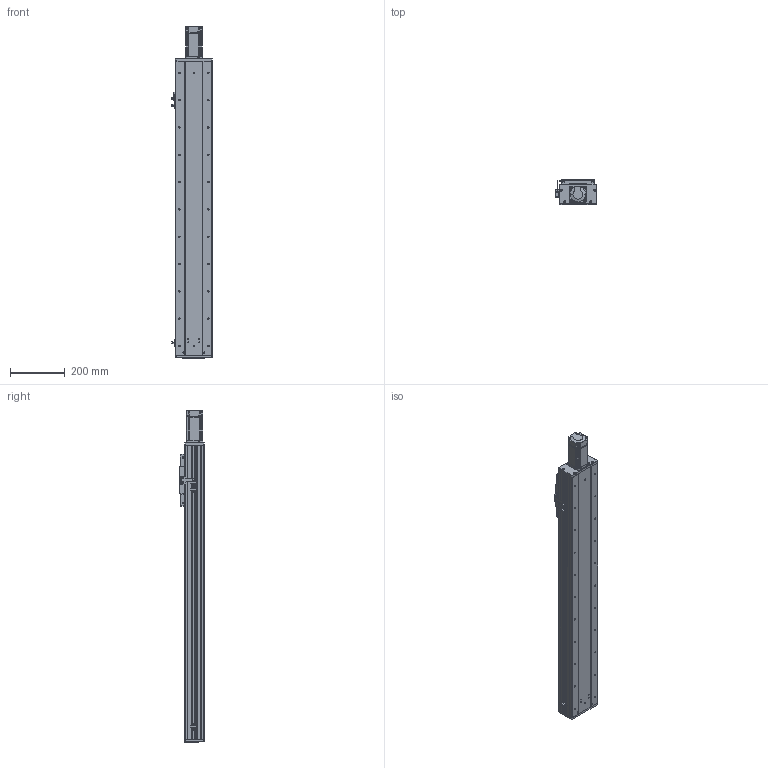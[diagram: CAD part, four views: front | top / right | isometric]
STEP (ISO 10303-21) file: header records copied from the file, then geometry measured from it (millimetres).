
FILE_DESCRIPTION (( 'STEP AP203' ), '1' );
FILE_NAME ('RY140F-L2020-300-MK.SLDASM_800.step', '2021-03-02T06:24:13', ( '盈信电脑' ), ( '东莞市道滘镇水果街19号' ), 'SwSTEP 2.0', 'SolidWorks 2012', '' );
FILE_SCHEMA (( 'CONFIG_CONTROL_DESIGN' ));
Length unit declared in the file: millimetre
Products named in the file (18): RY140F-L2020-300-MK.SLDASM_800; 滅袉蝶18-10; 侐源滅袉蝶; 侂狟400W侜督萇儂; RY140F-詩湍揤え; RY140F-672覜茼んえ; 覜茼ん672; RY140F-后盖板(铝件）; RY140F-直连前盖板(铝件）; 15; RY140F-直连型材铝滑块(16丝杆); RY140F-詩湍幗謫粣; RY140F-滅鳥奻裔; RY100F-詩湍揤踡謫; RY140F-300-MK眻蟀倰第菁釱_800; RY140F-300-MK眻蟀倰第奻裔啣_800; RY140F-300-MK眻蟀詩湍_800; RY140F-直连型材铝滑块连接座
Assembly tree (22 placements, depth 3):
  RY140F-L2020-300-MK.SLDASM_800
    RY140F-300-MK眻蟀倰第菁釱_800
    RY140F-300-MK眻蟀倰第奻裔啣_800  x2
    RY140F-300-MK眻蟀詩湍_800
    RY140F-直连型材铝滑块连接座
    RY140F-滅鳥奻裔
    RY140F-詩湍幗謫粣
    RY100F-詩湍揤踡謫
    RY140F-直连型材铝滑块(16丝杆)
    RY140F-直连前盖板(铝件）
    RY140F-后盖板(铝件）
    侂狟400W侜督萇儂
      15
    覜茼ん672  x3
    RY140F-672覜茼んえ
    RY140F-詩湍揤え  x2
    滅袉蝶18-10
    侐源滅袉蝶  x2
Bounding box: 148.7 x 91 x 1215.5 mm (x, y, z)
Volume: 4159865.2 mm3; surface area: 1437960.3 mm2
Topology: 21 solids, 21 shells, 1972 faces, 5425 edges, 3474 vertices
Faces by surface type: cylinder 902, plane 854, cone 194, bspline 18, torus 4
Entity records: 57186 total; most frequent: CARTESIAN_POINT 11455, DIRECTION 9340, ORIENTED_EDGE 8966, EDGE_CURVE 4483, AXIS2_PLACEMENT_3D 3347, VERTEX_POINT 2942, LINE 2646, VECTOR 2646
